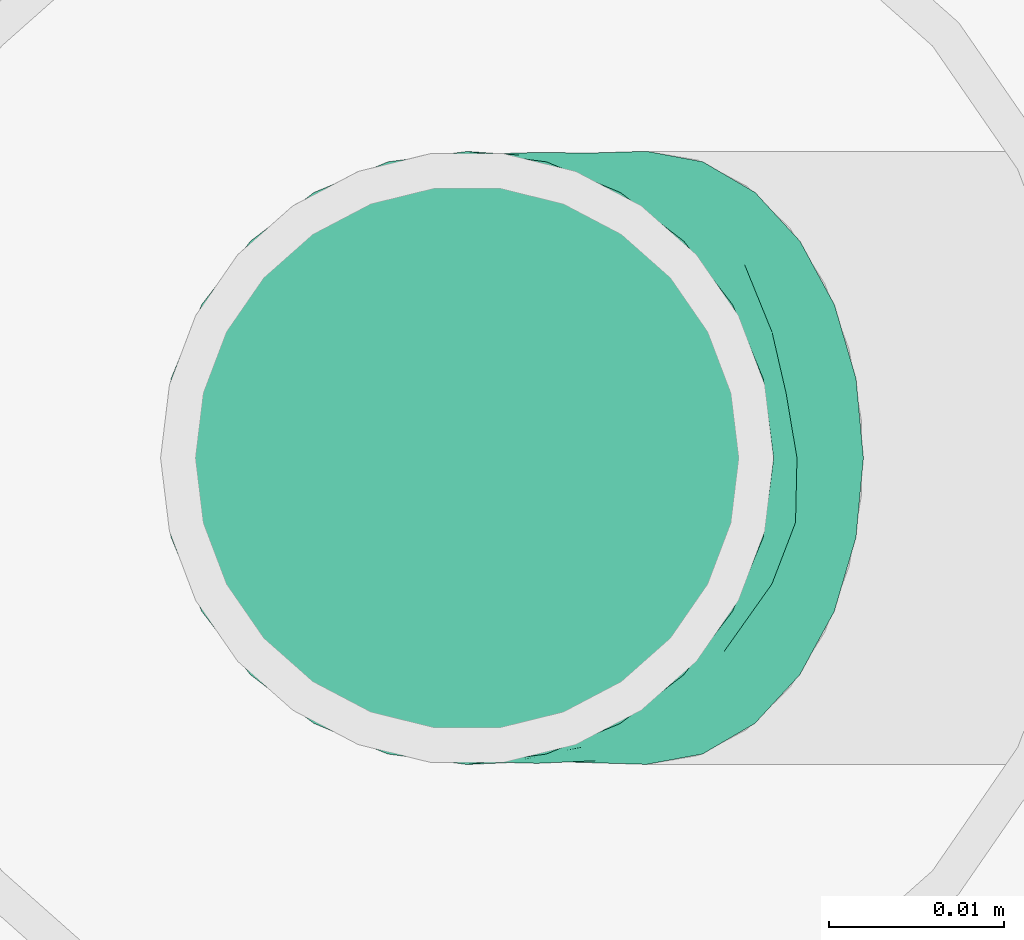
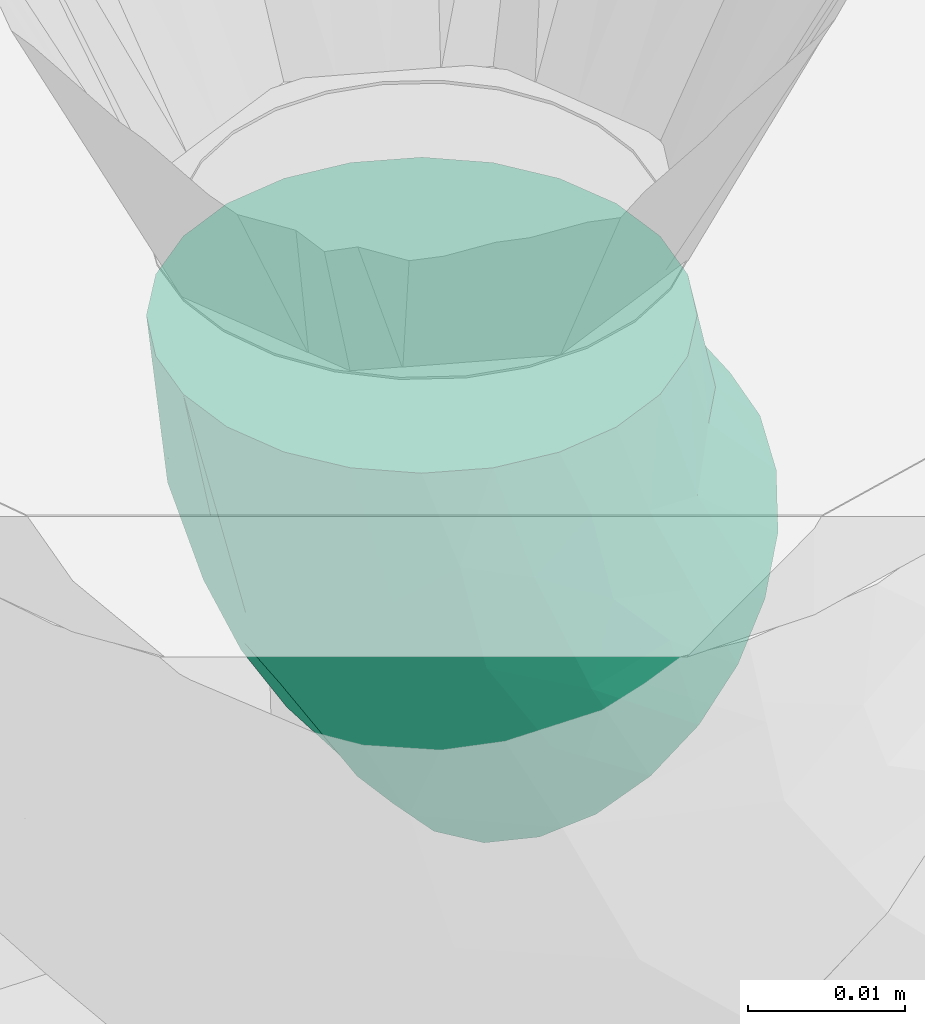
# One storey, part 35 of 35: 1 flow fitting.
"""IFC2X3 building model written with IfcOpenShell, lengths in millimetres."""

import ifcopenshell
import ifcopenshell.guid

model = None  # the IFC model being written
_history = None  # IfcOwnerHistory: only IFC2X3 demands one
_inside = {}  # id of a spatial element -> (the spatial element, [elements in it])
_under = {}  # id of a project, library or spatial element -> (it, [spatial elements below it])
_declared = {}  # id of a project -> (the project, [libraries it declares])
_typed = {}  # id of a type object -> (the type object, [elements of that type])
_made_of = {}  # id of a material, layer set ... -> (it, [elements and type objects made of it])


def new_model(schema):
    """Start an empty IFC model of exactly this schema.

    Asked for "IFC4X3", IfcOpenShell would pick the latest addendum, in which some entities
    have other attributes; the version numbers below select the first issue.
    IFC2X3 requires an IfcOwnerHistory on every rooted entity: one is made here for all.
    """
    global model, _history
    if schema == "IFC4X3":
        model = ifcopenshell.file(schema_version=(4, 3, 0, 0))
    else:
        model = ifcopenshell.file(schema=schema)
    _inside.clear()
    _under.clear()
    _declared.clear()
    _typed.clear()
    _made_of.clear()
    _history = None
    if model.schema == "IFC2X3":
        org = make("IfcOrganization", Name="unknown")
        user = make(
            "IfcPersonAndOrganization",
            ThePerson=make("IfcPerson", FamilyName="unknown"),
            TheOrganization=org,
        )
        app = make(
            "IfcApplication",
            ApplicationDeveloper=org,
            Version="unknown",
            ApplicationFullName="unknown",
            ApplicationIdentifier="unknown",
        )
        _history = make(
            "IfcOwnerHistory",
            OwningUser=user,
            OwningApplication=app,
            ChangeAction="ADDED",
            CreationDate=0,
        )
    return model


def make(cls, **values):
    """One entity of the class cls with the attributes given. An attribute that is None is left unset."""
    return model.create_entity(
        cls, **{name: value for name, value in values.items() if value is not None}
    )


def entity(cls, *values):
    """Any entity or typed value of the class cls, its attributes in the order of the schema. None: left unset."""
    e = model.create_entity(cls)
    for i, value in enumerate(values):
        if value is not None:
            e[i] = value
    return e


def rooted(cls, **values):
    """An entity with a GlobalId (a new one), such as an element, a storey or a relation."""
    return make(cls, GlobalId=ifcopenshell.guid.new(), OwnerHistory=_history, **values)


def si_unit(unit_type, name, prefix=None):
    """IfcSIUnit, for example si_unit("LENGTHUNIT", "METRE", prefix="MILLI")."""
    return make("IfcSIUnit", UnitType=unit_type, Prefix=prefix, Name=name)


def converted_unit(unit_type, name, factor, base, dimensions=None, offset=None):
    """IfcConversionBasedUnit, such as the inch: factor (a typed value) times the base unit."""
    return make(
        "IfcConversionBasedUnit"
        if offset is None
        else "IfcConversionBasedUnitWithOffset",
        ConversionOffset=offset,
        Dimensions=None
        if dimensions is None
        else entity("IfcDimensionalExponents", *dimensions),
        UnitType=unit_type,
        Name=name,
        ConversionFactor=make(
            "IfcMeasureWithUnit", ValueComponent=factor, UnitComponent=base
        ),
    )


def derived_unit(unit_type, elements):
    """IfcDerivedUnit: a product of units, each with its exponent."""
    return make(
        "IfcDerivedUnit",
        Elements=[
            make("IfcDerivedUnitElement", Unit=unit, Exponent=power)
            for unit, power in elements
        ],
        UnitType=unit_type,
    )


def assignment(units):
    """IfcUnitAssignment: the units of a project."""
    return None if units is None else make("IfcUnitAssignment", Units=units)


def point(xyz):
    """IfcCartesianPoint."""
    return None if xyz is None else make("IfcCartesianPoint", Coordinates=xyz)


def direction(xyz):
    """IfcDirection."""
    return None if xyz is None else make("IfcDirection", DirectionRatios=xyz)


def frame(location, z_axis=None, x_axis=None):
    """IfcAxis2Placement3D, a coordinate frame: its origin and axes. An axis left out is left unset."""
    return make(
        "IfcAxis2Placement3D",
        Location=point(location),
        Axis=direction(z_axis),
        RefDirection=direction(x_axis),
    )


def origin_with_axes():
    """The frame at (0, 0, 0) with the z axis (0, 0, 1) and the x axis (1, 0, 0) written out."""
    return frame((0.0, 0.0, 0.0), z_axis=(0.0, 0.0, 1.0), x_axis=(1.0, 0.0, 0.0))


def place(relative_to, where):
    """IfcLocalPlacement: puts the frame where relative to a parent placement (None: the world)."""
    return make(
        "IfcLocalPlacement", PlacementRelTo=relative_to, RelativePlacement=where
    )


def context(
    kind, dimensions, precision=None, world=None, true_north=None, identifier=None
):
    """IfcGeometricRepresentationContext, for example the 3D "Model" context."""
    return make(
        "IfcGeometricRepresentationContext",
        ContextIdentifier=identifier,
        ContextType=kind,
        CoordinateSpaceDimension=dimensions,
        Precision=precision,
        WorldCoordinateSystem=world,
        TrueNorth=true_north,
    )


def subcontext(parent, identifier, kind, view, scale=None):
    """IfcGeometricRepresentationSubContext, for example "Body" below "Model"."""
    return make(
        "IfcGeometricRepresentationSubContext",
        ContextIdentifier=identifier,
        ContextType=kind,
        ParentContext=parent,
        TargetScale=scale,
        TargetView=view,
    )


def project(units=None, contexts=None):
    """IfcProject with its units and contexts."""
    return rooted(
        "IfcProject",
        Name="project",
        RepresentationContexts=contexts,
        UnitsInContext=assignment(units),
    )


def spatial(cls, under=None, at=None, **own):
    """A site, building, storey or space (cls), placed at a placement, below another one or the project."""
    s = rooted(cls, ObjectPlacement=at, **own)
    if under is not None:
        _under.setdefault(under.id(), (under, []))[1].append(s)
    return s


def faces_of(points, faces, orient=None, outer=None):
    """IfcFace entities. A face is a list of loops; a loop is a list of indices into points, from 0.

    orient and outer hold one flag for each loop. By default every Orientation is true, the
    first loop of a face is its IfcFaceOuterBound and the others are IfcFaceBound.
    """
    made = []
    for i, loops in enumerate(faces):
        bounds = []
        for j, loop in enumerate(loops):
            is_outer = j == 0 if outer is None else outer[i][j]
            bounds.append(
                make(
                    "IfcFaceOuterBound" if is_outer else "IfcFaceBound",
                    Bound=make("IfcPolyLoop", Polygon=[points[k] for k in loop]),
                    Orientation=True if orient is None else orient[i][j],
                )
            )
        made.append(make("IfcFace", Bounds=bounds))
    return made


def open_shell(faces, orient=None, outer=None):
    """The faces of one IfcOpenShell. surface_model builds it on its shared points."""
    return ("IfcOpenShell", faces, orient, outer)


def surface_model(cls, points, shells):
    """IfcFaceBasedSurfaceModel or IfcShellBasedSurfaceModel (cls): surfaces that need not close."""
    shared = [point(p) for p in points]
    made = [make(c, CfsFaces=faces_of(shared, fs, o, b)) for c, fs, o, b in shells]
    if cls == "IfcFaceBasedSurfaceModel":
        return make(cls, FbsmFaces=made)
    return make(cls, SbsmBoundary=made)


def shape(context_of_items, identifier, shape_type, items):
    """IfcShapeRepresentation: the items that make up one representation, for example the "Body"."""
    return make(
        "IfcShapeRepresentation",
        ContextOfItems=context_of_items,
        RepresentationIdentifier=identifier,
        RepresentationType=shape_type,
        Items=items,
    )


def source(mapping_origin, context_of_items, identifier, shape_type, items):
    """IfcRepresentationMap: a shape defined once, which mapped items show again and again."""
    return make(
        "IfcRepresentationMap",
        MappingOrigin=mapping_origin,
        MappedRepresentation=shape(context_of_items, identifier, shape_type, items),
    )


def transform(
    local_origin,
    x_axis=None,
    y_axis=None,
    z_axis=None,
    scale=None,
    scale2=None,
    scale3=None,
    uniform=True,
):
    """IfcCartesianTransformationOperator3D, or its non-uniform kind. x_axis, y_axis, z_axis: its Axis1, 2, 3."""
    if uniform:
        return make(
            "IfcCartesianTransformationOperator3D",
            Axis1=direction(x_axis),
            Axis2=direction(y_axis),
            LocalOrigin=point(local_origin),
            Scale=scale,
            Axis3=direction(z_axis),
        )
    return make(
        "IfcCartesianTransformationOperator3DnonUniform",
        Axis1=direction(x_axis),
        Axis2=direction(y_axis),
        LocalOrigin=point(local_origin),
        Scale=scale,
        Axis3=direction(z_axis),
        Scale2=scale2,
        Scale3=scale3,
    )


def mapped(mapping_source, mapping_target):
    """IfcMappedItem: shows the shape of a source again, moved by a transform."""
    return make(
        "IfcMappedItem", MappingSource=mapping_source, MappingTarget=mapping_target
    )


def made_of(thing, what):
    """Note that an element or type object is made of a material, layer set ...; save() writes the relation."""
    if what is not None:
        _made_of.setdefault(what.id(), (what, []))[1].append(thing)
    return thing


def type_object(cls, material=None, **own):
    """A type object (cls), such as IfcWallType, which elements share."""
    return made_of(rooted(cls, **own), material)


def element(
    cls,
    number,
    at=None,
    inside=None,
    cuts=None,
    type_object=None,
    material=None,
    context=None,
    identifier="Body",
    shape_type=None,
    held_by="IfcProductDefinitionShape",
    body=None,
    shapes=None,
    **own,
):
    """One element of the class cls, such as IfcWall. Its Tag is "e" and its number.

    at: its placement. inside: the storey or other place that contains it. cuts: it is an
    opening in that element (IfcRelVoidsElement). A single representation is given by context,
    identifier, shape_type and body (its items); several are given by shapes. held_by: the class
    of the entity that holds the representations. save() writes the other relations.
    """
    e = rooted(cls, Tag="e%d" % number, ObjectPlacement=at, **own)
    if body is not None:
        shapes = [shape(context, identifier, shape_type, body)]
    if shapes is not None:
        e.Representation = make(held_by, Representations=shapes)
    if inside is not None:
        _inside.setdefault(inside.id(), (inside, []))[1].append(e)
    if cuts is not None:
        rooted(
            "IfcRelVoidsElement", RelatingBuildingElement=cuts, RelatedOpeningElement=e
        )
    if type_object is not None:
        _typed.setdefault(type_object.id(), (type_object, []))[1].append(e)
    return made_of(e, material)


def aggregate(whole, parts):
    """IfcRelAggregates: a whole, such as a stair, and the parts it consists of."""
    return rooted("IfcRelAggregates", RelatingObject=whole, RelatedObjects=parts)


def save(model, path):
    """Write the relations noted so far, then the file.

    IfcRelAggregates (storeys below a building ...), IfcRelContainedInSpatialStructure (elements
    in a storey), IfcRelDefinesByType, IfcRelAssociatesMaterial and IfcRelDeclares: one each for
    every whole, place, type object, material and project.
    """
    for whole, parts in _under.values():
        aggregate(whole, parts)
    for where, things in _inside.values():
        rooted(
            "IfcRelContainedInSpatialStructure",
            RelatedElements=things,
            RelatingStructure=where,
        )
    for kind, things in _typed.values():
        rooted("IfcRelDefinesByType", RelatedObjects=things, RelatingType=kind)
    for what, things in _made_of.values():
        rooted("IfcRelAssociatesMaterial", RelatedObjects=things, RelatingMaterial=what)
    for by, libraries in _declared.values():
        rooted("IfcRelDeclares", RelatingContext=by, RelatedDefinitions=libraries)
    model.write(path)


model = new_model("IFC2X3")

# Units and contexts
model_context = context("Model", 3, precision=0.01, world=frame((0.0, 4.29681676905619e-09, 0.0)), true_north=direction((4.01073788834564e-13, 1.0)))
plan_context = context("Plan", 3, precision=0.01, world=frame((0.0, 4.29681676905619e-09, 0.0)), true_north=direction((4.01073788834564e-13, 1.0)))
body_context = subcontext(model_context, "Body", "Model", "MODEL_VIEW")
ifc_project = project(units=[converted_unit("PLANEANGLEUNIT", "DEGREE", entity("IfcPositiveLengthMeasure", 0.0174532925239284), si_unit("PLANEANGLEUNIT", "RADIAN"), dimensions=[0, 0, 0, 0, 0, 0, 0]), si_unit("AREAUNIT", "SQUARE_METRE"), si_unit("LENGTHUNIT", "METRE", prefix="MILLI"), si_unit("MASSUNIT", "GRAM", prefix="KILO"), si_unit("POWERUNIT", "WATT"), si_unit("PRESSUREUNIT", "PASCAL"), si_unit("FORCEUNIT", "NEWTON", prefix="KILO"), si_unit("ELECTRICVOLTAGEUNIT", "VOLT"), si_unit("ELECTRICCURRENTUNIT", "AMPERE"), si_unit("THERMODYNAMICTEMPERATUREUNIT", "DEGREE_CELSIUS"), si_unit("TIMEUNIT", "SECOND"), si_unit("VOLUMEUNIT", "CUBIC_METRE"), derived_unit("LINEARVELOCITYUNIT", [(si_unit("LENGTHUNIT", "METRE"), 1), (si_unit("TIMEUNIT", "SECOND"), -1)]), derived_unit("VOLUMETRICFLOWRATEUNIT", [(si_unit("VOLUMEUNIT", "CUBIC_METRE"), 1), (si_unit("TIMEUNIT", "SECOND"), -1)]), derived_unit("THERMALTRANSMITTANCEUNIT", [(si_unit("POWERUNIT", "WATT"), 1), (si_unit("THERMODYNAMICTEMPERATUREUNIT", "KELVIN"), -1), (si_unit("AREAUNIT", "SQUARE_METRE"), -1)]), derived_unit("SOUNDPRESSUREUNIT", [(si_unit("PRESSUREUNIT", "PASCAL"), 1)])], contexts=[model_context, plan_context])

# Site, building, storey
site_placement = place(None, frame((0.0, -4.29681676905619e-09, 0.0), z_axis=(0.0, 0.0, 1.0), x_axis=(1.0, 0.0, 0.0)))
site = spatial("IfcSite", under=ifc_project, at=site_placement, Name="ENGM", CompositionType="ELEMENT")
building_placement = place(site_placement, frame((0.0, 4.29681676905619e-09, 0.0), z_axis=(0.0, 0.0, 1.0), x_axis=(1.0, 0.0, 0.0)))
building = spatial("IfcBuilding", under=site, at=building_placement, Name="TH", CompositionType="ELEMENT")
storey_placement = place(building_placement, frame((0.0, 0.0, 210200.0), z_axis=(0.0, 0.0, 1.0), x_axis=(1.0, 0.0, 0.0)))
storey = spatial("IfcBuildingStorey", under=building, at=storey_placement, Name="Nivå F - 0,7 m", CompositionType="ELEMENT", Elevation=210200.0)

# Flow fitting
pipe_fitting_type = type_object("IfcPipeFittingType", Name="magi_pipe_cu_elbow_short_001", PredefinedType="BEND")
shared_shape = source(origin_with_axes(), body_context, "Body", "SurfaceModel", [
    surface_model("IfcShellBasedSurfaceModel", [(-14.49747, 8.75, -15.15544), (-14.49747, 4.52933, -16.9037), (-14.49747, 0.0, -17.5), (-14.49747, 16.9037, -4.52933), (-14.49747, 15.15544, -8.75), (-14.49747, 12.37437, -12.37437), (-14.49747, -16.9037, 4.52933), (-14.49747, -12.37437, -12.37437), (-14.49747, -4.52933, -16.9037), (-14.49747, -8.75, -15.15544), (-14.49747, -16.9037, -4.52933), (-14.49747, -17.5, 0.0), (-14.49747, -15.15544, -8.75), (-14.49747, 16.9037, 4.52933), (-14.49747, 15.15544, 8.75), (-14.49747, 12.37437, 12.37437), (-14.49747, 4.52933, 16.9037), (-14.49747, 8.75, 15.15544), (-14.49747, -15.15544, 8.75), (-14.49747, -12.37437, 12.37437), (-14.49747, -8.75, 15.15544), (-14.49747, -4.52933, 16.9037), (-14.49747, 0.0, 17.5), (-14.49747, 17.5, 0.0), (10.25126, 10.25126, -17.5), (7.04854, 13.45398, -16.9037), (4.06408, 16.43845, -15.15544), (-0.46525, 20.96778, -8.75), (-1.70146, 22.20398, -4.52933), (1.50126, 19.00126, -12.37437), (22.20398, -1.70146, 4.52933), (19.00126, 1.50126, 12.37437), (20.96778, -0.46525, 8.75), (16.43845, 4.06408, 15.15544), (10.25126, 10.25126, 17.5), (13.45398, 7.04854, 16.9037), (-1.70146, 22.20398, 4.52933), (-2.12311, 22.62563, 0.0), (-6.93416, -6.41711, 15.9941), (-3.8716, -9.8906, 13.50368), (1.79686, -4.338, 15.7736), (-5.65096, -13.38418, 10.24692), (13.45988, -5.46821, 10.24692), (-5.22297, -1.68494, 17.26816), (-6.72405, 7.28223, 16.36003), (-1.66449, 4.01843, 17.43851), (-8.7683, 2.425, 17.3938), (7.04854, 13.45398, 16.9037), (0.51944, 10.52063, 16.33376), (3.16359, 8.28372, 17.24547), (4.45714, -10.76049, 9.75222), (9.44077, 0.36561, 15.9941), (-7.20921, 17.40458, 7.18976), (-7.71745, 14.67633, 11.04368), (-4.97091, 12.00084, 14.28709), (1.50652, -14.71176, 3.09359), (8.0002, -12.13005, 3.09359), (5.17485, -12.49319, 6.08973), (-4.45203, -15.50184, 0.0), (-4.93144, -16.32325, 3.18815), (16.86537, -6.69438, 3.36586), (12.92447, -8.48694, 6.0773), (-7.00953, 18.75174, 3.67696), (-3.13781, -15.14015, 6.0773), (4.06408, 16.43845, 15.15544), (1.50126, 19.00126, 12.37437), (4.88463, 2.50176, 17.26816), (9.73135, -4.25607, 13.50368), (-0.46525, 20.96778, 8.75), (5.59341, -13.50368, 0.0), (14.10952, -7.81339, 0.0), (22.62563, -2.12311, 0.0), (-7.80051, 18.83211, 0.0), (2.93734, -7.09137, 13.95528), (-5.22297, -1.68494, -17.26816), (13.45398, 7.04854, -16.9037), (4.88463, 2.50176, -17.26816), (-7.80651, 7.07191, -16.33376), (-8.09447, 3.62047, -17.24547), (-4.92067, 15.83479, -11.04368), (16.43845, 4.06408, -15.15544), (19.00126, 1.50126, -12.37437), (9.73135, -4.25607, -13.50368), (-7.20921, 17.40458, -7.18976), (20.96778, -0.46525, -8.75), (22.20398, -1.70146, -4.52933), (12.92447, -8.48694, -6.0773), (-8.303, 18.21597, -3.67696), (-0.39469, 9.90394, -16.36003), (-7.19198, -16.65926, -3.36586), (-3.13781, -15.14015, -6.0773), (4.45714, -10.76049, -9.75222), (13.45988, -5.46821, -10.24692), (-5.65096, -13.38418, -10.24692), (-3.8716, -9.8906, -13.50368), (2.93734, -7.09137, -13.95528), (-6.93416, -6.41711, -15.9941), (1.79686, -4.338, -15.7736), (9.44077, 0.36561, -15.9941), (9.33751, -11.46806, -3.09359), (-1.66449, 4.01843, -17.43851), (-4.97091, 12.00084, -14.28709), (15.02934, -8.05523, -3.18815), (4.48539, 7.91486, -17.3938), (5.17485, -12.49319, -6.08973), (2.92025, -14.23423, -3.09359)], [open_shell([[[0, 1, 2]], [[3, 0, 2]], [[0, 3, 4]], [[5, 0, 4]], [[6, 2, 7]], [[8, 9, 2]], [[9, 7, 2]], [[10, 11, 12]], [[12, 11, 6]], [[6, 7, 12]], [[3, 2, 6]], [[13, 3, 6]], [[14, 13, 15]], [[16, 17, 15]], [[6, 15, 13]], [[15, 6, 16]], [[18, 19, 6]], [[20, 6, 19]], [[21, 22, 20]], [[6, 20, 22]], [[22, 16, 6]], [[23, 3, 13]], [[24, 25, 26]], [[27, 28, 26]], [[27, 26, 29]], [[30, 31, 32]], [[31, 30, 33]], [[33, 34, 35]], [[36, 28, 37]], [[38, 39, 40]], [[19, 41, 39]], [[20, 19, 39]], [[32, 31, 42]], [[22, 21, 43]], [[21, 20, 38]], [[17, 16, 44]], [[45, 46, 43]], [[22, 46, 16]], [[47, 48, 49]], [[39, 41, 50]], [[33, 35, 51]], [[52, 14, 53]], [[54, 15, 17]], [[55, 56, 57]], [[58, 55, 59]], [[60, 30, 61]], [[52, 62, 13]], [[18, 6, 63]], [[23, 13, 62]], [[13, 14, 52]], [[19, 18, 41]], [[44, 54, 17]], [[63, 57, 50]], [[11, 58, 59]], [[64, 65, 54]], [[34, 49, 66]], [[31, 33, 67]], [[68, 36, 52]], [[66, 35, 34]], [[55, 58, 69]], [[31, 67, 42]], [[45, 49, 48]], [[67, 33, 51]], [[18, 63, 41]], [[70, 60, 56]], [[30, 60, 71]], [[46, 44, 16]], [[62, 52, 36]], [[72, 62, 37]], [[42, 50, 61]], [[39, 73, 40]], [[40, 66, 43]], [[47, 64, 48]], [[40, 51, 66]], [[52, 53, 68]], [[45, 43, 66]], [[65, 68, 53]], [[54, 44, 48]], [[38, 43, 21]], [[14, 15, 53]], [[30, 32, 61]], [[50, 41, 63]], [[73, 50, 67]], [[50, 42, 67]], [[61, 32, 42]], [[15, 54, 53]], [[65, 53, 54]], [[54, 48, 64]], [[45, 48, 44]], [[39, 38, 20]], [[43, 38, 40]], [[66, 51, 35]], [[67, 51, 40]], [[66, 49, 45]], [[34, 47, 49]], [[43, 46, 22]], [[44, 46, 45]], [[55, 57, 63]], [[61, 50, 57]], [[55, 63, 59]], [[56, 55, 69]], [[70, 56, 69]], [[61, 57, 56]], [[63, 6, 59]], [[11, 59, 6]], [[50, 73, 39]], [[67, 40, 73]], [[37, 62, 36]], [[62, 72, 23]], [[56, 60, 61]], [[71, 60, 70]], [[8, 2, 74]], [[24, 75, 76]], [[77, 78, 1]], [[4, 79, 5]], [[80, 81, 82]], [[83, 79, 4]], [[84, 85, 86]], [[3, 87, 83]], [[26, 25, 88]], [[89, 10, 90]], [[0, 77, 1]], [[91, 92, 86]], [[10, 89, 11]], [[93, 7, 94]], [[7, 9, 94]], [[95, 91, 94]], [[10, 12, 90]], [[7, 93, 12]], [[96, 9, 8]], [[93, 91, 90]], [[97, 74, 76]], [[98, 76, 75]], [[23, 72, 87]], [[99, 70, 69]], [[37, 28, 87]], [[100, 76, 74]], [[29, 26, 101]], [[83, 4, 3]], [[27, 79, 83]], [[96, 94, 9]], [[88, 101, 26]], [[78, 74, 2]], [[101, 88, 77]], [[5, 101, 0]], [[70, 99, 102]], [[24, 103, 25]], [[98, 75, 80]], [[86, 104, 91]], [[81, 84, 92]], [[82, 97, 98]], [[82, 92, 91]], [[97, 96, 74]], [[71, 70, 102]], [[27, 29, 79]], [[103, 88, 25]], [[92, 82, 81]], [[82, 95, 97]], [[103, 76, 100]], [[100, 78, 77]], [[28, 83, 87]], [[84, 86, 92]], [[28, 27, 83]], [[91, 93, 94]], [[90, 12, 93]], [[29, 101, 79]], [[5, 79, 101]], [[101, 77, 0]], [[100, 77, 88]], [[74, 96, 8]], [[94, 96, 97]], [[82, 98, 80]], [[76, 98, 97]], [[74, 78, 100]], [[2, 1, 78]], [[76, 103, 24]], [[88, 103, 100]], [[99, 104, 86]], [[90, 91, 104]], [[99, 86, 102]], [[86, 85, 102]], [[71, 102, 85]], [[91, 95, 82]], [[94, 97, 95]], [[23, 87, 3]], [[87, 72, 37]], [[11, 89, 58]], [[24, 26, 28]], [[24, 28, 84]], [[75, 81, 80]], [[81, 75, 84]], [[85, 30, 71]], [[84, 75, 24]], [[85, 84, 30]], [[84, 28, 36]], [[30, 84, 36]], [[64, 36, 68]], [[36, 64, 33]], [[64, 68, 65]], [[47, 34, 64]], [[33, 30, 36]], [[64, 34, 33]], [[99, 105, 104]], [[58, 89, 105]], [[105, 99, 69]], [[58, 105, 69]], [[90, 104, 105]], [[105, 89, 90]]])]),
])
flow_fitting_placement = place(storey_placement, frame((905283.35126, 486361.4, 3170.96346), z_axis=(0.000477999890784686, 0.999999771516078, 0.000477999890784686), x_axis=(-0.707106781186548, 0.0, 0.707106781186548)))
element("IfcFlowFitting", 1, at=flow_fitting_placement, inside=storey, type_object=pipe_fitting_type, Name="magi_pipe_cu_elbow_short_001", context=body_context, shape_type="MappedRepresentation", body=[
    mapped(shared_shape, transform((0.0, 0.0, 0.0), scale=1.0)),
])

save(model, "model.ifc")
